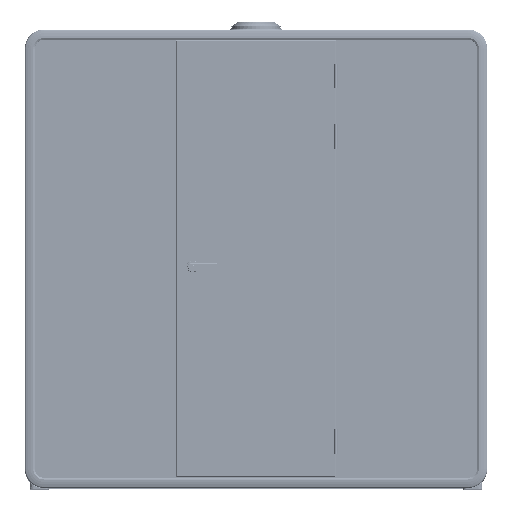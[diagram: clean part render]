
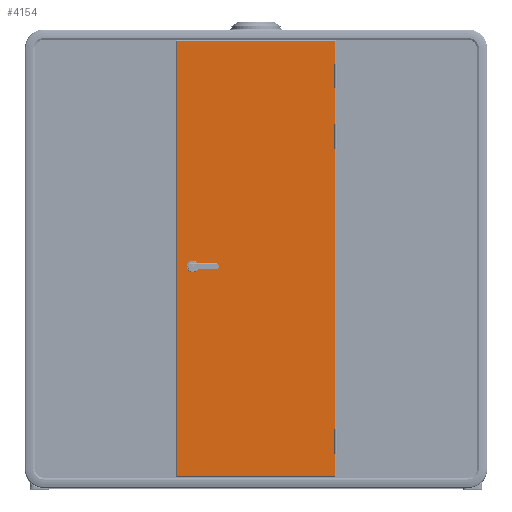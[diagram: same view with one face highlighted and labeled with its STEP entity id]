
A CAD part, top view. The second image highlights one B-rep face of the part: STEP entity #4154.
In plain terms, the highlighted planar face has unit normal (0, 0, 1).
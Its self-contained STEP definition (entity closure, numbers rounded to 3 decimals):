
#3231 = DIRECTION ( 'NONE',  ( 1., 0., 0. ) ) ;
#4154 = ADVANCED_FACE ( 'NONE', ( #29702, #5186 ), #285441, .F. ) ;
#4657 = VERTEX_POINT ( 'NONE', #192702 ) ;
#5186 = FACE_OUTER_BOUND ( 'NONE', #96522, .T. ) ;
#6397 = ORIENTED_EDGE ( 'NONE', *, *, #235000, .F. ) ;
#8342 = EDGE_CURVE ( 'NONE', #25340, #122510, #252714, .T. ) ;
#8519 = VECTOR ( 'NONE', #240835, 1000. ) ;
#10224 = CARTESIAN_POINT ( 'NONE',  ( 392., 1082., 885.5 ) ) ;
#10617 = VECTOR ( 'NONE', #240029, 1000. ) ;
#10677 = ORIENTED_EDGE ( 'NONE', *, *, #149186, .F. ) ;
#15107 = ORIENTED_EDGE ( 'NONE', *, *, #140100, .T. ) ;
#16086 = DIRECTION ( 'NONE',  ( 1., 0., 0. ) ) ;
#18595 = DIRECTION ( 'NONE',  ( 0., 0., 1. ) ) ;
#25340 = VERTEX_POINT ( 'NONE', #262671 ) ;
#25414 = CIRCLE ( 'NONE', #134912, 21.5 ) ;
#28196 = CARTESIAN_POINT ( 'NONE',  ( 0., -1082., 885.5 ) ) ;
#29702 = FACE_BOUND ( 'NONE', #59423, .T. ) ;
#32281 = CARTESIAN_POINT ( 'NONE',  ( -322.25, -17., 885.5 ) ) ;
#36725 = CARTESIAN_POINT ( 'NONE',  ( 0., 0., 885.5 ) ) ;
#40657 = EDGE_CURVE ( 'NONE', #81124, #199330, #234337, .T. ) ;
#47948 = DIRECTION ( 'NONE',  ( -1., 0., 0. ) ) ;
#48730 = EDGE_CURVE ( 'NONE', #189837, #158238, #268059, .T. ) ;
#53048 = CARTESIAN_POINT ( 'NONE',  ( -322.25, -17., 885.5 ) ) ;
#55873 = DIRECTION ( 'NONE',  ( 0., 1., 0. ) ) ;
#59423 = EDGE_LOOP ( 'NONE', ( #269365, #10677, #241406, #161343, #266836 ) ) ;
#66081 = AXIS2_PLACEMENT_3D ( 'NONE', #216963, #150330, #16086 ) ;
#69911 = CARTESIAN_POINT ( 'NONE',  ( -322.25, -60., 885.5 ) ) ;
#77092 = DIRECTION ( 'NONE',  ( 0., 1., 0. ) ) ;
#79325 = LINE ( 'NONE', #260552, #156636 ) ;
#81124 = VERTEX_POINT ( 'NONE', #125160 ) ;
#86722 = EDGE_CURVE ( 'NONE', #4657, #81124, #239434, .T. ) ;
#94012 = VERTEX_POINT ( 'NONE', #201381 ) ;
#96522 = EDGE_LOOP ( 'NONE', ( #290243, #6397, #15107, #248285 ) ) ;
#98578 = CARTESIAN_POINT ( 'NONE',  ( 392., 0., 885.5 ) ) ;
#106464 = AXIS2_PLACEMENT_3D ( 'NONE', #164870, #233435, #120756 ) ;
#117027 = LINE ( 'NONE', #28196, #197771 ) ;
#117187 = VECTOR ( 'NONE', #77092, 1000. ) ;
#120756 = DIRECTION ( 'NONE',  ( 1., 0., 0. ) ) ;
#122510 = VERTEX_POINT ( 'NONE', #32281 ) ;
#125160 = CARTESIAN_POINT ( 'NONE',  ( -310.75, -60., 885.5 ) ) ;
#127749 = DIRECTION ( 'NONE',  ( 0., 0., -1. ) ) ;
#134108 = CARTESIAN_POINT ( 'NONE',  ( -392., -1082., 885.5 ) ) ;
#134912 = AXIS2_PLACEMENT_3D ( 'NONE', #196946, #18595, #286129 ) ;
#140100 = EDGE_CURVE ( 'NONE', #94012, #189837, #215367, .T. ) ;
#149186 = EDGE_CURVE ( 'NONE', #122510, #4657, #246104, .T. ) ;
#150330 = DIRECTION ( 'NONE',  ( 0., 0., 1. ) ) ;
#156636 = VECTOR ( 'NONE', #55873, 1000. ) ;
#158238 = VERTEX_POINT ( 'NONE', #255486 ) ;
#161343 = ORIENTED_EDGE ( 'NONE', *, *, #225829, .F. ) ;
#164870 = CARTESIAN_POINT ( 'NONE',  ( -310.75, -38.5, 885.5 ) ) ;
#172806 = VECTOR ( 'NONE', #3231, 1000. ) ;
#189837 = VERTEX_POINT ( 'NONE', #10224 ) ;
#192702 = CARTESIAN_POINT ( 'NONE',  ( -322.25, -60., 885.5 ) ) ;
#196946 = CARTESIAN_POINT ( 'NONE',  ( -310.75, -38.5, 885.5 ) ) ;
#197771 = VECTOR ( 'NONE', #47948, 1000. ) ;
#199330 = VERTEX_POINT ( 'NONE', #249774 ) ;
#201381 = CARTESIAN_POINT ( 'NONE',  ( 392., -1082., 885.5 ) ) ;
#210170 = EDGE_CURVE ( 'NONE', #226067, #158238, #79325, .T. ) ;
#215367 = LINE ( 'NONE', #98578, #117187 ) ;
#216963 = CARTESIAN_POINT ( 'NONE',  ( -322.25, -38.5, 885.5 ) ) ;
#225829 = EDGE_CURVE ( 'NONE', #199330, #25340, #25414, .T. ) ;
#226067 = VERTEX_POINT ( 'NONE', #134108 ) ;
#233435 = DIRECTION ( 'NONE',  ( 0., 0., 1. ) ) ;
#234337 = CIRCLE ( 'NONE', #106464, 21.5 ) ;
#235000 = EDGE_CURVE ( 'NONE', #94012, #226067, #117027, .T. ) ;
#235278 = AXIS2_PLACEMENT_3D ( 'NONE', #36725, #127749, #282572 ) ;
#239434 = LINE ( 'NONE', #69911, #172806 ) ;
#240029 = DIRECTION ( 'NONE',  ( -1., 0., 0. ) ) ;
#240835 = DIRECTION ( 'NONE',  ( -1., 0., 0. ) ) ;
#241406 = ORIENTED_EDGE ( 'NONE', *, *, #8342, .F. ) ;
#246104 = CIRCLE ( 'NONE', #66081, 21.5 ) ;
#248285 = ORIENTED_EDGE ( 'NONE', *, *, #48730, .T. ) ;
#249774 = CARTESIAN_POINT ( 'NONE',  ( -289.25, -38.5, 885.5 ) ) ;
#252714 = LINE ( 'NONE', #53048, #10617 ) ;
#255486 = CARTESIAN_POINT ( 'NONE',  ( -392., 1082., 885.5 ) ) ;
#260552 = CARTESIAN_POINT ( 'NONE',  ( -392., 0., 885.5 ) ) ;
#262671 = CARTESIAN_POINT ( 'NONE',  ( -310.75, -17., 885.5 ) ) ;
#266836 = ORIENTED_EDGE ( 'NONE', *, *, #40657, .F. ) ;
#268059 = LINE ( 'NONE', #282012, #8519 ) ;
#269365 = ORIENTED_EDGE ( 'NONE', *, *, #86722, .F. ) ;
#282012 = CARTESIAN_POINT ( 'NONE',  ( 0., 1082., 885.5 ) ) ;
#282572 = DIRECTION ( 'NONE',  ( -1., 0., 0. ) ) ;
#285441 = PLANE ( 'NONE',  #235278 ) ;
#286129 = DIRECTION ( 'NONE',  ( 1., 0., 0. ) ) ;
#290243 = ORIENTED_EDGE ( 'NONE', *, *, #210170, .F. ) ;
